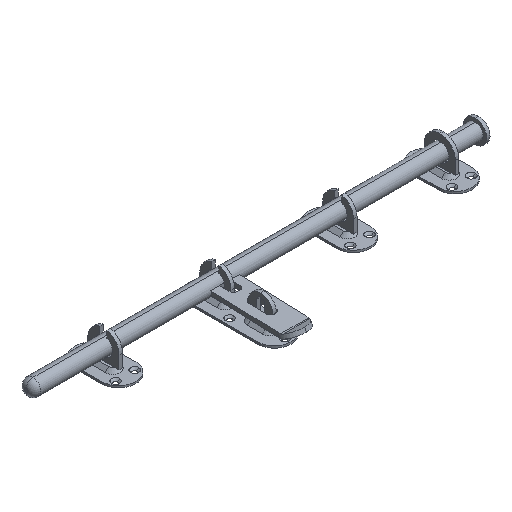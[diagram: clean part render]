
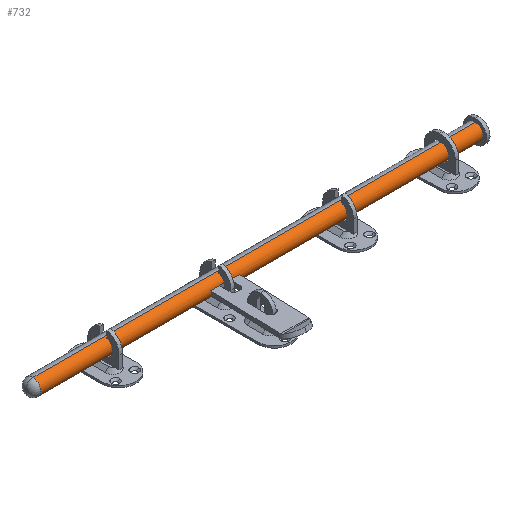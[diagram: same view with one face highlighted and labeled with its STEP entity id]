
A CAD part, isometric view. The second image highlights one B-rep face of the part: STEP entity #732.
In plain terms, the highlighted cylindrical face has radius 8 mm (diameter 16 mm), a partial arc.
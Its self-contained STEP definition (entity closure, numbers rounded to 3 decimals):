
#74 = EDGE_CURVE ( 'NONE', #167, #1196, #1584, .T. ) ;
#142 = VERTEX_POINT ( 'NONE', #1943 ) ;
#167 = VERTEX_POINT ( 'NONE', #2102 ) ;
#393 = ORIENTED_EDGE ( 'NONE', *, *, #1232, .F. ) ;
#444 = EDGE_LOOP ( 'NONE', ( #393, #1148, #1052, #944, #821, #4356, #3300, #2248 ) ) ;
#462 = EDGE_CURVE ( 'NONE', #856, #1196, #4069, .T. ) ;
#495 = ORIENTED_EDGE ( 'NONE', *, *, #462, .T. ) ;
#538 = ORIENTED_EDGE ( 'NONE', *, *, #5024, .T. ) ;
#589 = EDGE_CURVE ( 'NONE', #142, #167, #2165, .T. ) ;
#620 = ORIENTED_EDGE ( 'NONE', *, *, #589, .F. ) ;
#663 = ORIENTED_EDGE ( 'NONE', *, *, #74, .F. ) ;
#712 = EDGE_LOOP ( 'NONE', ( #663, #620, #538, #495 ) ) ;
#732 = ADVANCED_FACE ( 'NONE', ( #3221, #3222 ), #3223, .T. ) ;
#784 = EDGE_CURVE ( 'NONE', #4844, #884, #3643, .T. ) ;
#821 = ORIENTED_EDGE ( 'NONE', *, *, #784, .F. ) ;
#856 = VERTEX_POINT ( 'NONE', #1349 ) ;
#884 = VERTEX_POINT ( 'NONE', #1426 ) ;
#906 = EDGE_CURVE ( 'NONE', #884, #996, #1497, .T. ) ;
#944 = ORIENTED_EDGE ( 'NONE', *, *, #906, .F. ) ;
#996 = VERTEX_POINT ( 'NONE', #1758 ) ;
#1017 = EDGE_CURVE ( 'NONE', #996, #1092, #1915, .T. ) ;
#1052 = ORIENTED_EDGE ( 'NONE', *, *, #1017, .F. ) ;
#1092 = VERTEX_POINT ( 'NONE', #2425 ) ;
#1108 = EDGE_CURVE ( 'NONE', #1217, #1092, #2570, .T. ) ;
#1148 = ORIENTED_EDGE ( 'NONE', *, *, #1108, .T. ) ;
#1196 = VERTEX_POINT ( 'NONE', #3177 ) ;
#1198 = VERTEX_POINT ( 'NONE', #3179 ) ;
#1217 = VERTEX_POINT ( 'NONE', #3327 ) ;
#1232 = EDGE_CURVE ( 'NONE', #1217, #1198, #3412, .T. ) ;
#1349 = CARTESIAN_POINT ( 'NONE',  ( 6.5, 0., 8. ) ) ;
#1426 = CARTESIAN_POINT ( 'NONE',  ( 185., -7.746, -2. ) ) ;
#1497 = LINE ( 'NONE', #1498, #1499 ) ;
#1498 = CARTESIAN_POINT ( 'NONE',  ( 446.6, -7.746, -2. ) ) ;
#1499 = VECTOR ( 'NONE', #1500, 1000. ) ;
#1500 = DIRECTION ( 'NONE',  ( 1., 0., 0. ) ) ;
#1584 = LINE ( 'NONE', #1585, #1586 ) ;
#1585 = CARTESIAN_POINT ( 'NONE',  ( 446.6, 0., -8. ) ) ;
#1586 = VECTOR ( 'NONE', #1587, 1000. ) ;
#1587 = DIRECTION ( 'NONE',  ( -1., 0., 0. ) ) ;
#1758 = CARTESIAN_POINT ( 'NONE',  ( 195., -7.746, -2. ) ) ;
#1891 = EDGE_CURVE ( 'NONE', #1198, #2737, #4162, .T. ) ;
#1915 = LINE ( 'NONE', #1916, #1917 ) ;
#1916 = CARTESIAN_POINT ( 'NONE',  ( 446.6, -7.746, -2. ) ) ;
#1917 = VECTOR ( 'NONE', #1918, 1000. ) ;
#1918 = DIRECTION ( 'NONE',  ( 1., 0., 0. ) ) ;
#1931 = CARTESIAN_POINT ( 'NONE',  ( 185., -7.746, 2. ) ) ;
#1943 = CARTESIAN_POINT ( 'NONE',  ( 446.6, 0., 8. ) ) ;
#2074 = LINE ( 'NONE', #2075, #2076 ) ;
#2075 = CARTESIAN_POINT ( 'NONE',  ( 446.6, -7.746, 2. ) ) ;
#2076 = VECTOR ( 'NONE', #2077, 1000. ) ;
#2077 = DIRECTION ( 'NONE',  ( -1., 0., 0. ) ) ;
#2102 = CARTESIAN_POINT ( 'NONE',  ( 446.6, 0., -8. ) ) ;
#2165 = CIRCLE ( 'NONE', #2166, 8. ) ;
#2166 = AXIS2_PLACEMENT_3D ( 'NONE', #2167, #2168, #2169 ) ;
#2167 = CARTESIAN_POINT ( 'NONE',  ( 446.6, 0., 0. ) ) ;
#2168 = DIRECTION ( 'NONE',  ( 1., 0., 0. ) ) ;
#2169 = DIRECTION ( 'NONE',  ( 0., 0., -1. ) ) ;
#2248 = ORIENTED_EDGE ( 'NONE', *, *, #1891, .F. ) ;
#2425 = CARTESIAN_POINT ( 'NONE',  ( 204., -7.746, -2. ) ) ;
#2570 = CIRCLE ( 'NONE', #2571, 8. ) ;
#2571 = AXIS2_PLACEMENT_3D ( 'NONE', #2572, #2573, #2574 ) ;
#2572 = CARTESIAN_POINT ( 'NONE',  ( 204., 0., 0. ) ) ;
#2573 = DIRECTION ( 'NONE',  ( 1., 0., 0. ) ) ;
#2574 = DIRECTION ( 'NONE',  ( 0., 0., -1. ) ) ;
#2589 = CARTESIAN_POINT ( 'NONE',  ( 176., -7.746, 2. ) ) ;
#2714 = CIRCLE ( 'NONE', #2715, 8. ) ;
#2715 = AXIS2_PLACEMENT_3D ( 'NONE', #2716, #2717, #2718 ) ;
#2716 = CARTESIAN_POINT ( 'NONE',  ( 176., 0., 0. ) ) ;
#2717 = DIRECTION ( 'NONE',  ( 1., 0., 0. ) ) ;
#2718 = DIRECTION ( 'NONE',  ( 0., 0., -1. ) ) ;
#2737 = VERTEX_POINT ( 'NONE', #1931 ) ;
#2951 = EDGE_CURVE ( 'NONE', #2737, #3797, #2074, .T. ) ;
#3177 = CARTESIAN_POINT ( 'NONE',  ( 6.5, 0., -8. ) ) ;
#3179 = CARTESIAN_POINT ( 'NONE',  ( 195., -7.746, 2. ) ) ;
#3221 = FACE_OUTER_BOUND ( 'NONE', #712, .T. ) ;
#3222 = FACE_BOUND ( 'NONE', #444, .T. ) ;
#3223 = CYLINDRICAL_SURFACE ( 'NONE', #3224, 8. ) ;
#3224 = AXIS2_PLACEMENT_3D ( 'NONE', #3225, #3226, #3227 ) ;
#3225 = CARTESIAN_POINT ( 'NONE',  ( 446.6, 0., 0. ) ) ;
#3226 = DIRECTION ( 'NONE',  ( -1., 0., 0. ) ) ;
#3227 = DIRECTION ( 'NONE',  ( 0., 0., 1. ) ) ;
#3300 = ORIENTED_EDGE ( 'NONE', *, *, #2951, .F. ) ;
#3327 = CARTESIAN_POINT ( 'NONE',  ( 204., -7.746, 2. ) ) ;
#3337 = CARTESIAN_POINT ( 'NONE',  ( 176., -7.746, -2. ) ) ;
#3412 = LINE ( 'NONE', #3413, #3414 ) ;
#3413 = CARTESIAN_POINT ( 'NONE',  ( 446.6, -7.746, 2. ) ) ;
#3414 = VECTOR ( 'NONE', #3418, 1000. ) ;
#3418 = DIRECTION ( 'NONE',  ( -1., 0., 0. ) ) ;
#3610 = LINE ( 'NONE', #3611, #3612 ) ;
#3611 = CARTESIAN_POINT ( 'NONE',  ( 446.6, 0., 8. ) ) ;
#3612 = VECTOR ( 'NONE', #3613, 1000. ) ;
#3613 = DIRECTION ( 'NONE',  ( -1., 0., 0. ) ) ;
#3643 = LINE ( 'NONE', #3644, #3645 ) ;
#3644 = CARTESIAN_POINT ( 'NONE',  ( 446.6, -7.746, -2. ) ) ;
#3645 = VECTOR ( 'NONE', #3646, 1000. ) ;
#3646 = DIRECTION ( 'NONE',  ( 1., 0., 0. ) ) ;
#3797 = VERTEX_POINT ( 'NONE', #2589 ) ;
#4009 = EDGE_CURVE ( 'NONE', #3797, #4844, #2714, .T. ) ;
#4069 = CIRCLE ( 'NONE', #4070, 8. ) ;
#4070 = AXIS2_PLACEMENT_3D ( 'NONE', #4071, #4072, #4073 ) ;
#4071 = CARTESIAN_POINT ( 'NONE',  ( 6.5, 0., 0. ) ) ;
#4072 = DIRECTION ( 'NONE',  ( 1., 0., 0. ) ) ;
#4073 = DIRECTION ( 'NONE',  ( 0., 0., -1. ) ) ;
#4162 = LINE ( 'NONE', #4163, #4164 ) ;
#4163 = CARTESIAN_POINT ( 'NONE',  ( 185., -7.746, 2. ) ) ;
#4164 = VECTOR ( 'NONE', #4167, 1000. ) ;
#4167 = DIRECTION ( 'NONE',  ( -1., 0., 0. ) ) ;
#4356 = ORIENTED_EDGE ( 'NONE', *, *, #4009, .F. ) ;
#4844 = VERTEX_POINT ( 'NONE', #3337 ) ;
#5024 = EDGE_CURVE ( 'NONE', #142, #856, #3610, .T. ) ;
